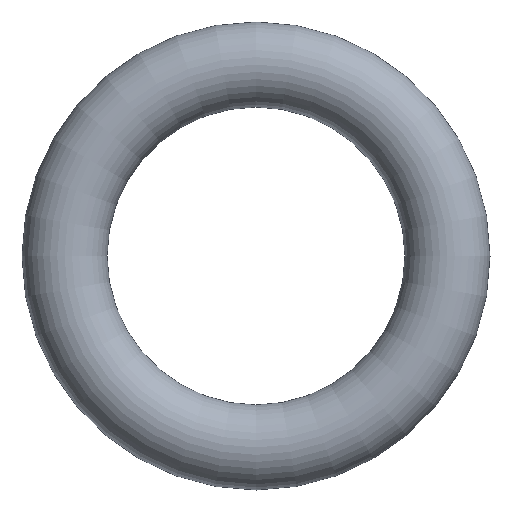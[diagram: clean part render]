
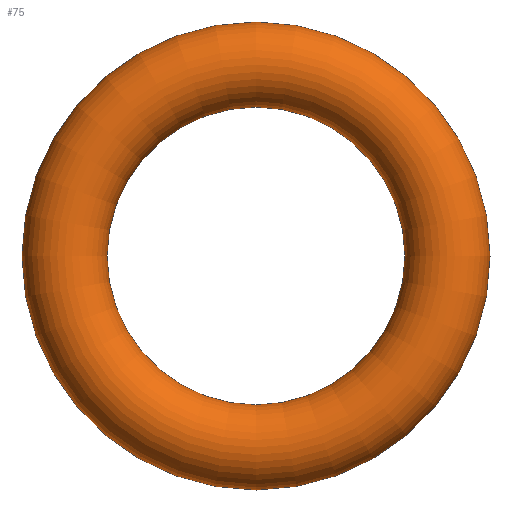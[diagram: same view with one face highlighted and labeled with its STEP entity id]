
A CAD part, front view. The second image highlights one B-rep face of the part: STEP entity #75.
In plain terms, the highlighted toroidal (fillet/blend) face has major radius 2.25 mm and minor radius 0.5 mm.
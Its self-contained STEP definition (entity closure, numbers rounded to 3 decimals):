
#75 = ADVANCED_FACE( '', ( #77 ), #78, .T. );
#77 = FACE_BOUND( '', #79, .T. );
#78 = TOROIDAL_SURFACE( '', #80, 2.25, 0.5 );
#79 = VERTEX_LOOP( '', #81 );
#80 = AXIS2_PLACEMENT_3D( '', #82, #83, #84 );
#81 = VERTEX_POINT( '', #85 );
#82 = CARTESIAN_POINT( '', ( 0., 0., 0. ) );
#83 = DIRECTION( '', ( 0., -1., 0. ) );
#84 = DIRECTION( '', ( 0., 0., -1. ) );
#85 = CARTESIAN_POINT( '', ( 0., 0., -2.75 ) );
